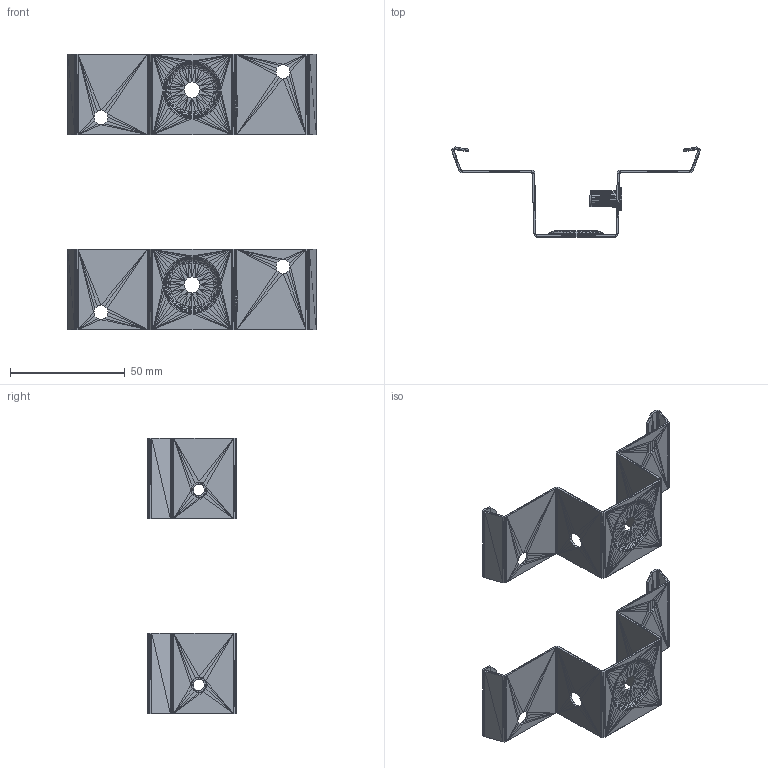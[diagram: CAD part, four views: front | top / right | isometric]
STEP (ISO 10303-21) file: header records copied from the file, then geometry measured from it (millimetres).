
FILE_DESCRIPTION((''),'2;1');
FILE_NAME('051113', '2026-07-29T10:50:54', (''), (''), 'ImageToStl.com STEP Converter','', '');
FILE_SCHEMA(('AUTOMOTIVE_DESIGN_CC2'));
Length unit declared in the file: metre
Products named in the file (1): product0
Bounding box: 108.3 x 39.1 x 120 mm (x, y, z)
Surface area: 28016.8 mm2 (no closed solid volume)
Topology: 0 solids, 5712 shells, 5712 faces, 17136 edges, 2840 vertices
Faces by surface type: plane 5712
Entity records: 131372 total; most frequent: DIRECTION 28562, ORIENTED_EDGE 17136, EDGE_CURVE 17136, LINE 17136, VECTOR 17136, AXIS2_PLACEMENT_3D 5713, FACE_SURFACE 5712, PLANE 5712
